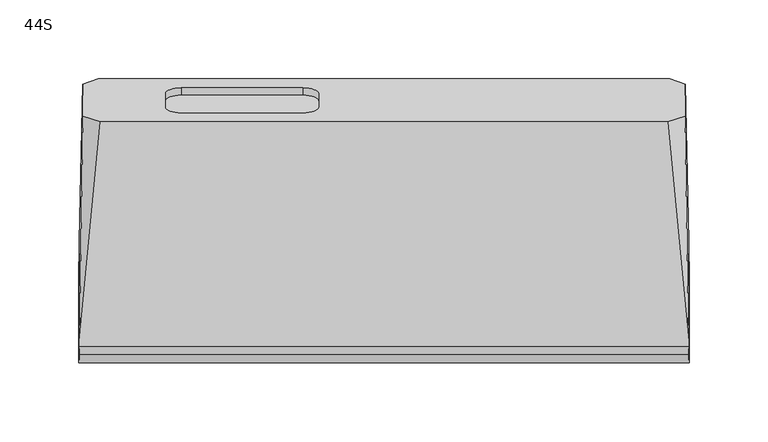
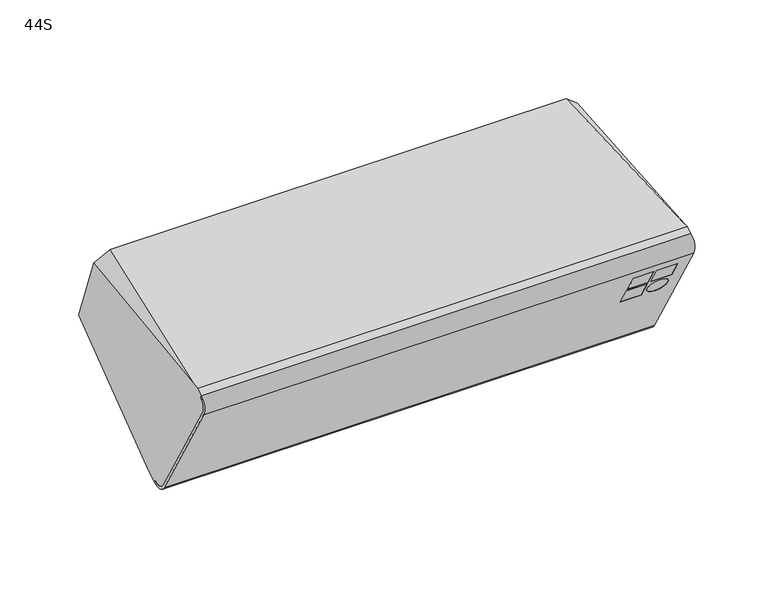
"""IFC4 building model written with IfcOpenShell, lengths in millimetres: proxy geometry, d&b xS-Series 44S Point Source : 44S."""

import ifcopenshell
import ifcopenshell.guid

model = None  # the IFC model being written
_history = None  # IfcOwnerHistory: only IFC2X3 demands one
_inside = {}  # id of a spatial element -> (the spatial element, [elements in it])
_under = {}  # id of a project, library or spatial element -> (it, [spatial elements below it])
_declared = {}  # id of a project -> (the project, [libraries it declares])
_typed = {}  # id of a type object -> (the type object, [elements of that type])
_made_of = {}  # id of a material, layer set ... -> (it, [elements and type objects made of it])


def new_model(schema):
    """Start an empty IFC model of exactly this schema.

    Asked for "IFC4X3", IfcOpenShell would pick the latest addendum, in which some entities
    have other attributes; the version numbers below select the first issue.
    IFC2X3 requires an IfcOwnerHistory on every rooted entity: one is made here for all.
    """
    global model, _history
    if schema == "IFC4X3":
        model = ifcopenshell.file(schema_version=(4, 3, 0, 0))
    else:
        model = ifcopenshell.file(schema=schema)
    _inside.clear()
    _under.clear()
    _declared.clear()
    _typed.clear()
    _made_of.clear()
    _history = None
    if model.schema == "IFC2X3":
        org = make("IfcOrganization", Name="unknown")
        user = make(
            "IfcPersonAndOrganization",
            ThePerson=make("IfcPerson", FamilyName="unknown"),
            TheOrganization=org,
        )
        app = make(
            "IfcApplication",
            ApplicationDeveloper=org,
            Version="unknown",
            ApplicationFullName="unknown",
            ApplicationIdentifier="unknown",
        )
        _history = make(
            "IfcOwnerHistory",
            OwningUser=user,
            OwningApplication=app,
            ChangeAction="ADDED",
            CreationDate=0,
        )
    return model


def make(cls, **values):
    """One entity of the class cls with the attributes given. An attribute that is None is left unset."""
    return model.create_entity(
        cls, **{name: value for name, value in values.items() if value is not None}
    )


def rooted(cls, **values):
    """An entity with a GlobalId (a new one), such as an element, a storey or a relation."""
    return make(cls, GlobalId=ifcopenshell.guid.new(), OwnerHistory=_history, **values)


def si_unit(unit_type, name, prefix=None):
    """IfcSIUnit, for example si_unit("LENGTHUNIT", "METRE", prefix="MILLI")."""
    return make("IfcSIUnit", UnitType=unit_type, Prefix=prefix, Name=name)


def assignment(units):
    """IfcUnitAssignment: the units of a project."""
    return None if units is None else make("IfcUnitAssignment", Units=units)


def point(xyz):
    """IfcCartesianPoint."""
    return None if xyz is None else make("IfcCartesianPoint", Coordinates=xyz)


def direction(xyz):
    """IfcDirection."""
    return None if xyz is None else make("IfcDirection", DirectionRatios=xyz)


def frame(location, z_axis=None, x_axis=None):
    """IfcAxis2Placement3D, a coordinate frame: its origin and axes. An axis left out is left unset."""
    return make(
        "IfcAxis2Placement3D",
        Location=point(location),
        Axis=direction(z_axis),
        RefDirection=direction(x_axis),
    )


def frame_2d(location, x_axis=None):
    """IfcAxis2Placement2D, a coordinate frame in the plane: its origin and x axis."""
    return make(
        "IfcAxis2Placement2D", Location=point(location), RefDirection=direction(x_axis)
    )


def origin():
    """The frame at (0, 0, 0) with its axes left unset."""
    return frame((0.0, 0.0, 0.0))


def place(relative_to, where):
    """IfcLocalPlacement: puts the frame where relative to a parent placement (None: the world)."""
    return make(
        "IfcLocalPlacement", PlacementRelTo=relative_to, RelativePlacement=where
    )


def context(
    kind, dimensions, precision=None, world=None, true_north=None, identifier=None
):
    """IfcGeometricRepresentationContext, for example the 3D "Model" context."""
    return make(
        "IfcGeometricRepresentationContext",
        ContextIdentifier=identifier,
        ContextType=kind,
        CoordinateSpaceDimension=dimensions,
        Precision=precision,
        WorldCoordinateSystem=world,
        TrueNorth=true_north,
    )


def project(units=None, contexts=None):
    """IfcProject with its units and contexts."""
    return rooted(
        "IfcProject",
        Name="project",
        RepresentationContexts=contexts,
        UnitsInContext=assignment(units),
    )


def spatial(cls, under=None, at=None, **own):
    """A site, building, storey or space (cls), placed at a placement, below another one or the project."""
    s = rooted(cls, ObjectPlacement=at, **own)
    if under is not None:
        _under.setdefault(under.id(), (under, []))[1].append(s)
    return s


def polyline(points):
    """IfcPolyline through the points."""
    return make("IfcPolyline", Points=[point(p) for p in points])


def circle_curve(where, radius):
    """IfcCircle in the frame where."""
    return make("IfcCircle", Position=where, Radius=radius)


def ellipse_curve(where, semi_axis1, semi_axis2):
    """IfcEllipse in the frame where."""
    return make(
        "IfcEllipse", Position=where, SemiAxis1=semi_axis1, SemiAxis2=semi_axis2
    )


def trimmed(basis, trim1, trim2, sense, master):
    """IfcTrimmedCurve: the piece of a basis curve between two trims."""
    return make(
        "IfcTrimmedCurve",
        BasisCurve=basis,
        Trim1=trim1,
        Trim2=trim2,
        SenseAgreement=sense,
        MasterRepresentation=master,
    )


def segment(curve, same_sense, transition):
    """IfcCompositeCurveSegment."""
    return make(
        "IfcCompositeCurveSegment",
        Transition=transition,
        SameSense=same_sense,
        ParentCurve=curve,
    )


def composite_curve(segments, self_intersect=None):
    """IfcCompositeCurve: segments joined end to end."""
    return make("IfcCompositeCurve", Segments=segments, SelfIntersect=self_intersect)


def outline(outer, holes=None, kind="AREA"):
    """IfcArbitraryClosedProfileDef: a profile drawn as a closed curve; with holes, ...WithVoids."""
    if holes is None:
        return make("IfcArbitraryClosedProfileDef", ProfileType=kind, OuterCurve=outer)
    return make(
        "IfcArbitraryProfileDefWithVoids",
        ProfileType=kind,
        OuterCurve=outer,
        InnerCurves=holes,
    )


def extrude(swept, where, along, depth):
    """IfcExtrudedAreaSolid: the profile swept, set in the frame where, extruded along a direction by depth."""
    return make(
        "IfcExtrudedAreaSolid",
        SweptArea=swept,
        Position=where,
        ExtrudedDirection=direction(along),
        Depth=depth,
    )


def shape(context_of_items, identifier, shape_type, items):
    """IfcShapeRepresentation: the items that make up one representation, for example the "Body"."""
    return make(
        "IfcShapeRepresentation",
        ContextOfItems=context_of_items,
        RepresentationIdentifier=identifier,
        RepresentationType=shape_type,
        Items=items,
    )


def source(mapping_origin, context_of_items, identifier, shape_type, items):
    """IfcRepresentationMap: a shape defined once, which mapped items show again and again."""
    return make(
        "IfcRepresentationMap",
        MappingOrigin=mapping_origin,
        MappedRepresentation=shape(context_of_items, identifier, shape_type, items),
    )


def transform(
    local_origin,
    x_axis=None,
    y_axis=None,
    z_axis=None,
    scale=None,
    scale2=None,
    scale3=None,
    uniform=True,
):
    """IfcCartesianTransformationOperator3D, or its non-uniform kind. x_axis, y_axis, z_axis: its Axis1, 2, 3."""
    if uniform:
        return make(
            "IfcCartesianTransformationOperator3D",
            Axis1=direction(x_axis),
            Axis2=direction(y_axis),
            LocalOrigin=point(local_origin),
            Scale=scale,
            Axis3=direction(z_axis),
        )
    return make(
        "IfcCartesianTransformationOperator3DnonUniform",
        Axis1=direction(x_axis),
        Axis2=direction(y_axis),
        LocalOrigin=point(local_origin),
        Scale=scale,
        Axis3=direction(z_axis),
        Scale2=scale2,
        Scale3=scale3,
    )


def mapped(mapping_source, mapping_target):
    """IfcMappedItem: shows the shape of a source again, moved by a transform."""
    return make(
        "IfcMappedItem", MappingSource=mapping_source, MappingTarget=mapping_target
    )


def made_of(thing, what):
    """Note that an element or type object is made of a material, layer set ...; save() writes the relation."""
    if what is not None:
        _made_of.setdefault(what.id(), (what, []))[1].append(thing)
    return thing


def element(
    cls,
    number,
    at=None,
    inside=None,
    cuts=None,
    type_object=None,
    material=None,
    context=None,
    identifier="Body",
    shape_type=None,
    held_by="IfcProductDefinitionShape",
    body=None,
    shapes=None,
    **own,
):
    """One element of the class cls, such as IfcWall. Its Tag is "e" and its number.

    at: its placement. inside: the storey or other place that contains it. cuts: it is an
    opening in that element (IfcRelVoidsElement). A single representation is given by context,
    identifier, shape_type and body (its items); several are given by shapes. held_by: the class
    of the entity that holds the representations. save() writes the other relations.
    """
    e = rooted(cls, Tag="e%d" % number, ObjectPlacement=at, **own)
    if body is not None:
        shapes = [shape(context, identifier, shape_type, body)]
    if shapes is not None:
        e.Representation = make(held_by, Representations=shapes)
    if inside is not None:
        _inside.setdefault(inside.id(), (inside, []))[1].append(e)
    if cuts is not None:
        rooted(
            "IfcRelVoidsElement", RelatingBuildingElement=cuts, RelatedOpeningElement=e
        )
    if type_object is not None:
        _typed.setdefault(type_object.id(), (type_object, []))[1].append(e)
    return made_of(e, material)


def aggregate(whole, parts):
    """IfcRelAggregates: a whole, such as a stair, and the parts it consists of."""
    return rooted("IfcRelAggregates", RelatingObject=whole, RelatedObjects=parts)


def save(model, path):
    """Write the relations noted so far, then the file.

    IfcRelAggregates (storeys below a building ...), IfcRelContainedInSpatialStructure (elements
    in a storey), IfcRelDefinesByType, IfcRelAssociatesMaterial and IfcRelDeclares: one each for
    every whole, place, type object, material and project.
    """
    for whole, parts in _under.values():
        aggregate(whole, parts)
    for where, things in _inside.values():
        rooted(
            "IfcRelContainedInSpatialStructure",
            RelatedElements=things,
            RelatingStructure=where,
        )
    for kind, things in _typed.values():
        rooted("IfcRelDefinesByType", RelatedObjects=things, RelatingType=kind)
    for what, things in _made_of.values():
        rooted("IfcRelAssociatesMaterial", RelatedObjects=things, RelatingMaterial=what)
    for by, libraries in _declared.values():
        rooted("IfcRelDeclares", RelatingContext=by, RelatedDefinitions=libraries)
    model.write(path)


def plane_surface(at):
    """IfcPlane: the flat surface through the origin of the frame at, square to its z axis."""
    return make("IfcPlane", Position=at)


def cylinder_surface(at, radius):
    """IfcCylindricalSurface: all points at the distance radius from the z axis of the frame at."""
    return make("IfcCylindricalSurface", Position=at, Radius=radius)


def revolved_surface(curve, axis_point, axis_direction):
    """IfcSurfaceOfRevolution: the curve turned about the line through axis_point along axis_direction."""
    return make(
        "IfcSurfaceOfRevolution",
        SweptCurve=make("IfcArbitraryOpenProfileDef", ProfileType="CURVE", Curve=curve),
        AxisPosition=make("IfcAxis1Placement", Location=point(axis_point), Axis=direction(axis_direction)),
    )


def advanced_brep(points, edges, surfaces, faces):
    """IfcAdvancedBrep: a solid bounded by faces that lie on surfaces and meet in shared edges.

    An edge is (start, end): straight between two places in points (the first is 0);
    or (start, end, curve); or (start, end, curve, False) where it runs against its curve.
    A face is (place in surfaces, loops), or (place, loops, False) where it looks against
    its surface's normal. A loop lists edges by number (the first is 1), with a minus sign
    where the edge is run from its end to its start. The first loop is the outer one.
    """
    corners = [point(p) for p in points]
    vertices = [make("IfcVertexPoint", VertexGeometry=c) for c in corners]
    made = []
    for start, end, *more in edges:
        made.append(
            make(
                "IfcEdgeCurve",
                EdgeStart=vertices[start],
                EdgeEnd=vertices[end],
                EdgeGeometry=more[0] if more else make("IfcPolyline", Points=[corners[start], corners[end]]),
                SameSense=more[1] if len(more) > 1 else True,
            )
        )
    hull = []
    for where, loops, *sense in faces:
        bounds = []
        for j, loop in enumerate(loops):
            ring = [make("IfcOrientedEdge", EdgeElement=made[abs(k) - 1], Orientation=k > 0) for k in loop]
            bounds.append(
                make(
                    "IfcFaceOuterBound" if j == 0 else "IfcFaceBound",
                    Bound=make("IfcEdgeLoop", EdgeList=ring),
                    Orientation=True,
                )
            )
        hull.append(make("IfcAdvancedFace", Bounds=bounds, FaceSurface=surfaces[where], SameSense=sense[0] if sense else True))
    return make("IfcAdvancedBrep", Outer=make("IfcClosedShell", CfsFaces=hull))


def proxy_44s_24e2fab3(model_context):
    return source(origin(), model_context, "Body", "SolidModel", [
        advanced_brep(
        [(-193.4294708, -91.0556514, 9.7828242), (-193.4294708, -37.0164369, -83.8158409), (-193.2924342, -26.1359145, -86.7312681), (-193.2924342, -25.1576766, -88.4256258), (-193.4644806, -38.8179307, -84.7653718), (-193.4644806, -92.8179307, 8.7653718), (-193.2918337, -89.1449006, 22.4733067), (-193.2918337, -88.1274482, 20.7110274), (193.4294708, -37.0164369, -83.8158409), (193.4294708, -91.0556514, 9.7828242), (193.2918337, -88.1274482, 20.7110274), (193.2918337, -89.1449006, 22.4733067), (193.4644806, -92.8179307, 8.7653718), (193.4644806, -38.8179307, -84.7653718), (193.2924342, -25.1576766, -88.4256258), (193.2924342, -26.1359145, -86.7312681), (164.7978139, -76.7223181, -15.0432374), (148.4644806, -76.7223181, -15.0432374), (148.4644806, -68.5556514, -29.188319), (164.7978139, -68.5556514, -29.188319), (164.7978139, -86.0556514, 1.1225702), (148.4644806, -86.0556514, 1.1225702), (148.4644806, -77.8889848, -13.0225114), (164.7978139, -77.8889848, -13.0225114), (183.4644806, -86.0556514, 1.1225702), (167.1311473, -86.0556514, 1.1225702), (167.1311473, -77.8889848, -13.0225114), (183.4644806, -77.8889848, -13.0225114), (167.1311473, -72.6389848, -22.1157782), (183.4644806, -72.6389848, -22.1157782), (148.4644806, -78.4845974, -16.0606898), (164.7978139, -78.4845974, -16.0606898), (164.7978139, -70.3179307, -30.2057714), (148.4644806, -70.3179307, -30.2057714), (148.4644806, -87.8179307, 0.1051178), (164.7978139, -87.8179307, 0.1051178), (164.7978139, -79.651264, -14.0399638), (148.4644806, -79.651264, -14.0399638), (167.1311473, -87.8179307, 0.1051178), (183.4644806, -87.8179307, 0.1051178), (183.4644806, -79.651264, -14.0399638), (167.1311473, -79.651264, -14.0399638), (183.4644806, -74.401264, -23.1332306), (167.1311473, -74.401264, -23.1332306)],
        [
            (0, 1),
            (1, 2, ellipse_curve(frame((-193.2924342, -30.1184621, -79.8332933), z_axis=(0.999852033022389, -0.014897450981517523, -0.008601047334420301), x_axis=(0.01720209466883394, 0.865897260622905, 0.4999260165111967)), 7.9662739, 7.9650952)),
            (2, 3),
            (3, 4, ellipse_curve(frame((-193.2924342, -30.1576766, -79.7653718), z_axis=(-0.999852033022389, 0.014897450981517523, 0.008601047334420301), x_axis=(-0.01720209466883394, -0.865897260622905, -0.4999260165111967)), 10.0014799, 10.0)),
            (4, 5),
            (5, 6, ellipse_curve(frame((-193.2918337, -84.1274482, 13.7828242), z_axis=(-0.999852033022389, 0.014897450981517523, 0.008601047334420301), x_axis=(-0.01720209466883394, -0.865897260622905, -0.4999260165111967)), 10.0363899, 10.0349048)),
            (6, 7),
            (7, 0, ellipse_curve(frame((-193.2918337, -84.1274482, 13.7828242), z_axis=(0.999852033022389, -0.014897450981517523, -0.008601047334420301), x_axis=(0.01720209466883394, 0.865897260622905, 0.4999260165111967)), 8.0011839, 8.0)),
            (8, 9),
            (9, 10, ellipse_curve(frame((193.2918337, -84.1274482, 13.7828242), z_axis=(-0.9998520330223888, -0.014897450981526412, -0.008601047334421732), x_axis=(0.017202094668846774, -0.8658972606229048, -0.49992601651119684)), 8.0011839, 8.0)),
            (10, 11),
            (11, 12, ellipse_curve(frame((193.2918337, -84.1274482, 13.7828242), z_axis=(0.9998520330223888, 0.014897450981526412, 0.008601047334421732), x_axis=(-0.017202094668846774, 0.8658972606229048, 0.49992601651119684)), 10.0363899, 10.0349048)),
            (12, 13),
            (13, 14, ellipse_curve(frame((193.2924342, -30.1576766, -79.7653718), z_axis=(0.9998520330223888, 0.014897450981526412, 0.008601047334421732), x_axis=(-0.017202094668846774, 0.8658972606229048, 0.49992601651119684)), 10.0014799, 10.0)),
            (14, 15),
            (15, 8, ellipse_curve(frame((193.2924342, -30.1184621, -79.8332933), z_axis=(-0.9998520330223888, -0.014897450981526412, -0.008601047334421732), x_axis=(0.017202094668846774, -0.8658972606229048, -0.49992601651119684)), 7.9662739, 7.9650952)),
            (0, 9),
            (8, 1),
            (16, 17),
            (17, 18),
            (18, 19),
            (19, 16),
            (20, 21),
            (21, 22),
            (22, 23),
            (23, 20),
            (24, 25),
            (25, 26),
            (26, 27),
            (27, 24),
            (28, 29, circle_curve(frame((175.2978139, -72.6389848, -22.1157782), z_axis=(0.0, -0.8660254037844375, -0.5000000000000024), x_axis=(-1.0, 0.0, 0.0)), 8.1666667)),
            (29, 28, circle_curve(frame((175.2978139, -72.6389848, -22.1157782), z_axis=(0.0, -0.8660254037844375, -0.5000000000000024), x_axis=(-1.0, 0.0, 0.0)), 8.1666667)),
            (15, 2),
            (14, 3),
            (13, 4),
            (12, 5),
            (30, 31),
            (31, 32),
            (32, 33),
            (33, 30),
            (34, 35),
            (35, 36),
            (36, 37),
            (37, 34),
            (38, 39),
            (39, 40),
            (40, 41),
            (41, 38),
            (42, 43, circle_curve(frame((175.2978139, -74.401264, -23.1332306), z_axis=(0.0, 0.8660254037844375, 0.5000000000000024), x_axis=(-1.0, 0.0, 0.0)), 8.1666667)),
            (43, 42, circle_curve(frame((175.2978139, -74.401264, -23.1332306), z_axis=(0.0, 0.8660254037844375, 0.5000000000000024), x_axis=(-1.0, 0.0, 0.0)), 8.1666667)),
            (11, 6),
            (10, 7),
            (16, 31),
            (30, 17),
            (19, 32),
            (18, 33),
            (20, 35),
            (34, 21),
            (23, 36),
            (22, 37),
            (24, 39),
            (38, 25),
            (27, 40),
            (26, 41),
            (28, 43),
            (42, 29),
        ],
        [
            plane_surface(frame((-193.8309972, -134.2671805, 37.950861), z_axis=(-0.999852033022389, 0.014897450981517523, 0.008601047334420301), x_axis=(0.0, 0.5000000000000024, -0.8660254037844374))),
            plane_surface(frame((190.7119283, 22.7365637, 128.597015), z_axis=(0.999852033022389, 0.014897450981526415, 0.008601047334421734), x_axis=(0.0, 0.5000000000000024, -0.8660254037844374))),
            plane_surface(frame((-202.5, -91.0556514, 9.7828242), z_axis=(0.0, 0.8660254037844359, 0.5000000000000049), x_axis=(1.0, 0.0, 0.0))),
            revolved_surface(polyline([(193.4294708, -34.10100970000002, -72.93531851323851), (-193.4294708, -34.10100970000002, -72.93531851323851)]), (202.5, -30.1184621, -79.8332933), (1.0, 0.0, 0.0)),
            plane_surface(frame((-202.5, -26.1359145, -86.7312681), z_axis=(0.0, 0.8660254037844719, 0.4999999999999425), x_axis=(1.0, 0.0, 0.0))),
            cylinder_surface(frame((202.5, -30.1576766, -79.7653718), z_axis=(-1.0, 0.0, 0.0), x_axis=(0.0, -0.5000000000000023, 0.8660254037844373)), 10.0),
            plane_surface(frame((-202.5, -38.8179307, -84.7653718), z_axis=(0.0, -0.8660254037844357, -0.5000000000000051), x_axis=(1.0, 0.0, 0.0))),
            cylinder_surface(frame((202.5, -84.1274482, 13.7828242), z_axis=(-1.0, 0.0, 0.0), x_axis=(0.0, -0.5000000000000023, 0.8660254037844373)), 10.0349048),
            plane_surface(frame((-202.5, -89.1449006, 22.4733067), z_axis=(0.0, 0.8660254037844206, 0.5000000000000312), x_axis=(1.0, 0.0, 0.0))),
            revolved_surface(polyline([(193.42947082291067, -88.12744820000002, 20.7110274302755), (-193.42947082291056, -88.12744820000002, 20.7110274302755)]), (202.5, -84.1274482, 13.7828242), (1.0, 0.0, 0.0)),
            plane_surface(frame((164.7978139, -78.4845974, -16.0606898), z_axis=(0.0, 0.5000000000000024, -0.8660254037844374), x_axis=(0.0, 0.8660254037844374, 0.5000000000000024))),
            plane_surface(frame((164.7978139, -70.3179307, -30.2057714), z_axis=(-1.0000000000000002, 0.0, 0.0), x_axis=(0.0, 0.8660254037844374, 0.5000000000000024))),
            plane_surface(frame((148.4644806, -70.3179307, -30.2057714), z_axis=(0.0, -0.5000000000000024, 0.8660254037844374), x_axis=(0.0, 0.8660254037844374, 0.5000000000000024))),
            plane_surface(frame((148.4644806, -78.4845974, -16.0606898), z_axis=(1.0000000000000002, 0.0, 0.0), x_axis=(0.0, 0.8660254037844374, 0.5000000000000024))),
            plane_surface(frame((164.7978139, -87.8179307, 0.1051178), z_axis=(0.0, 0.5000000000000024, -0.8660254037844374), x_axis=(0.0, 0.8660254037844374, 0.5000000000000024))),
            plane_surface(frame((164.7978139, -79.651264, -14.0399638), z_axis=(-1.0000000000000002, 0.0, 0.0), x_axis=(0.0, 0.8660254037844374, 0.5000000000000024))),
            plane_surface(frame((148.4644806, -79.651264, -14.0399638), z_axis=(0.0, -0.5000000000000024, 0.8660254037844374), x_axis=(0.0, 0.8660254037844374, 0.5000000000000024))),
            plane_surface(frame((148.4644806, -87.8179307, 0.1051178), z_axis=(1.0000000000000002, 0.0, 0.0), x_axis=(0.0, 0.8660254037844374, 0.5000000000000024))),
            plane_surface(frame((183.4644806, -87.8179307, 0.1051178), z_axis=(0.0, 0.5000000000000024, -0.8660254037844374), x_axis=(0.0, 0.8660254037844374, 0.5000000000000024))),
            plane_surface(frame((183.4644806, -79.651264, -14.0399638), z_axis=(-1.0000000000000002, 0.0, 0.0), x_axis=(0.0, 0.8660254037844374, 0.5000000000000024))),
            plane_surface(frame((167.1311473, -79.651264, -14.0399638), z_axis=(0.0, -0.5000000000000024, 0.8660254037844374), x_axis=(0.0, 0.8660254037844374, 0.5000000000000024))),
            plane_surface(frame((167.1311473, -87.8179307, 0.1051178), z_axis=(1.0000000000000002, 0.0, 0.0), x_axis=(0.0, 0.8660254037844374, 0.5000000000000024))),
            revolved_surface(polyline([(167.1311472, -74.40126403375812, -23.133230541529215), (167.1311472, -72.6389848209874, -22.11577816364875)]), (175.2978139, -22.2212488, 6.9929153), (0.0, -0.8660254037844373, -0.5000000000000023)),
        ],
        [
            (0, [[1, 2, 3, 4, 5, 6, 7, 8]]),
            (1, [[9, 10, 11, 12, 13, 14, 15, 16]]),
            (2, [[17, -9, 18, -1], [19, 20, 21, 22], [23, 24, 25, 26], [27, 28, 29, 30], [31, 32]]),
            (3, [[-18, -16, 33, -2]]),
            (4, [[-33, -15, 34, -3]]),
            (5, [[-34, -14, 35, -4]]),
            (6, [[-35, -13, 36, -5], [37, 38, 39, 40], [41, 42, 43, 44], [45, 46, 47, 48], [49, 50]]),
            (7, [[-36, -12, 51, -6]]),
            (8, [[-51, -11, 52, -7]]),
            (9, [[-17, -8, -52, -10]]),
            (10, [[53, -37, 54, -19]]),
            (11, [[-53, -22, 55, -38]]),
            (12, [[-55, -21, 56, -39]]),
            (13, [[-56, -20, -54, -40]]),
            (14, [[57, -41, 58, -23]]),
            (15, [[-57, -26, 59, -42]]),
            (16, [[-59, -25, 60, -43]]),
            (17, [[-60, -24, -58, -44]]),
            (18, [[61, -45, 62, -27]]),
            (19, [[-61, -30, 63, -46]]),
            (20, [[-63, -29, 64, -47]]),
            (21, [[-64, -28, -62, -48]]),
            (22, [[65, -49, 66, -31]]),
            (22, [[-65, -32, -66, -50]]),
        ],
    ),
        extrude(outline(polyline([(0.0, -16.3333333), (0.0, 0.0), (5.0, 0.0), (5.0, -16.3333333), (0.0, -16.3333333)])), frame((148.4644806, -70.3179307, -30.2057714), z_axis=(0.0, -0.5000000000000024, 0.8660254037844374), x_axis=(0.0, 0.8660254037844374, 0.5000000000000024)), (0.0, 0.0, 1.0), 16.3333333),
        extrude(outline(polyline([(0.0, -16.3333333), (0.0, 0.0), (5.0, 0.0), (5.0, -16.3333333), (0.0, -16.3333333)])), frame((148.4644806, -79.651264, -14.0399638), z_axis=(0.0, -0.5000000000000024, 0.8660254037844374), x_axis=(0.0, 0.8660254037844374, 0.5000000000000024)), (0.0, 0.0, 1.0), 16.3333333),
        extrude(outline(polyline([(0.0, -16.3333333), (0.0, 0.0), (5.0, 0.0), (5.0, -16.3333333), (0.0, -16.3333333)])), frame((167.1311473, -79.651264, -14.0399638), z_axis=(0.0, -0.5000000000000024, 0.8660254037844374), x_axis=(0.0, 0.8660254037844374, 0.5000000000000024)), (0.0, 0.0, 1.0), 16.3333333),
        extrude(outline(composite_curve([segment(trimmed(circle_curve(frame_2d((-17.4999999, -26.8333333)), 8.1666667), [point((-17.4999999, -35.0))], [point((-17.4999999, -18.6666667))], False, "CARTESIAN"), True, "CONTINUOUS"), segment(trimmed(circle_curve(frame_2d((-17.4999999, -26.8333333)), 8.1666667), [point((-17.4999999, -18.6666667))], [point((-17.4999999, -35.0))], False, "CARTESIAN"), True, "CONTINUOUS")], self_intersect=False)), frame((148.4644806, -65.651264, -38.2886751), z_axis=(0.0, 0.8660254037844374, 0.5000000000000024), x_axis=(0.0, 0.5000000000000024, -0.8660254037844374)), (0.0, 0.0, 1.0), 5.0),
        advanced_brep(
        [(-193.2924342, -25.1576766, -88.4256258), (-193.2924342, -26.1359145, -86.7312681), (-193.4294708, -37.0164369, -83.8158409), (-193.4294708, -91.0556514, 9.7828242), (-193.2918337, -88.1274482, 20.7110274), (-193.2918337, -89.1274482, 22.4430782), (-193.1898069, -83.9917527, 25.4081734), (-193.132384, -80.4940274, 26.0252142), (-190.8800877, 62.083919, 40.8972455), (-191.0574064, 82.3836518, -14.875812), (-193.132384, -17.1012722, -83.7742586), (193.2924342, -26.1359145, -86.7312681), (193.2924342, -25.1576766, -88.4256258), (193.132384, -17.1012722, -83.7742586), (191.0574064, 82.3836518, -14.875812), (190.8800877, 62.083919, 40.8972455), (193.132384, -80.4940274, 26.0252142), (193.1898069, -83.9917527, 25.4081734), (193.2918337, -89.1274482, 22.4430782), (193.2918337, -88.1274482, 20.7110274), (193.4294708, -91.0556514, 9.7828242), (193.4294708, -37.0164369, -83.8158409), (-181.3061997, 85.8306872, -24.3464641), (181.3061997, 85.8306872, -24.3464641), (179.9289467, 58.5679066, 50.55741), (-179.9289467, 58.5679066, 50.55741), (-138.5, 67.7530351, 25.3214771), (-138.5, 76.6455588, 0.8894689), (-128.5, 80.0657602, -8.5074573), (-51.5, 80.0657602, -8.5074573), (-41.5, 76.6455588, 0.8894689), (-41.5, 67.7530351, 25.3214771), (-51.5, 64.3328336, 34.7184033), (-128.5, 64.3328336, 34.7184033), (-138.5, 63.054572, 23.6113763), (-128.5, 59.6343705, 33.0083025), (-51.5, 59.6343705, 33.0083025), (-41.5, 63.054572, 23.6113763), (-41.5, 71.9470957, -0.8206318), (-51.5, 75.3672971, -10.217558), (-128.5, 75.3672971, -10.217558), (-138.5, 71.9470957, -0.8206318)],
        [
            (0, 1),
            (1, 2, ellipse_curve(frame((-193.2924342, -30.1184621, -79.8332933), z_axis=(-0.999852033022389, 0.014897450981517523, 0.008601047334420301), x_axis=(-0.01720209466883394, -0.8658972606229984, -0.49992601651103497)), 7.9662739, 7.9650952)),
            (2, 3),
            (3, 4, ellipse_curve(frame((-193.2918337, -84.1274482, 13.7828242), z_axis=(-0.999852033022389, 0.014897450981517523, 0.008601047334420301), x_axis=(-0.01720209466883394, -0.8658972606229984, -0.49992601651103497)), 8.0011839, 8.0)),
            (4, 5),
            (5, 6),
            (6, 7),
            (7, 8),
            (8, 9),
            (9, 10),
            (10, 0),
            (11, 12),
            (12, 13),
            (13, 14),
            (14, 15),
            (15, 16),
            (16, 17),
            (17, 18),
            (18, 19),
            (19, 20, ellipse_curve(frame((193.2918337, -84.1274482, 13.7828242), z_axis=(0.9998520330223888, 0.014897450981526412, 0.008601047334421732), x_axis=(-0.017202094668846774, 0.8658972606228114, 0.4999260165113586)), 8.0011839, 8.0)),
            (20, 21),
            (21, 11, ellipse_curve(frame((193.2924342, -30.1184621, -79.8332933), z_axis=(0.9998520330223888, 0.014897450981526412, 0.008601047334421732), x_axis=(-0.017202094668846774, 0.8658972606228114, 0.4999260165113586)), 7.9662739, 7.9650952)),
            (0, 12),
            (11, 1),
            (21, 2),
            (20, 3),
            (19, 4),
            (18, 5),
            (17, 6),
            (10, 22),
            (22, 23),
            (23, 13),
            (16, 24),
            (24, 25),
            (25, 7),
            (9, 22),
            (23, 14),
            (15, 24),
            (25, 8),
            (26, 27),
            (27, 28, circle_curve(frame((-128.5, 76.6455588, 0.8894689), z_axis=(0.0, -0.9396926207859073, -0.34202014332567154), x_axis=(0.0, -0.34202014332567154, 0.9396926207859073)), 10.0)),
            (28, 29),
            (29, 30, circle_curve(frame((-51.5, 76.6455588, 0.8894689), z_axis=(0.0, -0.9396926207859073, -0.34202014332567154), x_axis=(0.0, -0.34202014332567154, 0.9396926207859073)), 10.0)),
            (30, 31),
            (31, 32, circle_curve(frame((-51.5, 67.7530351, 25.3214771), z_axis=(0.0, -0.9396926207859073, -0.34202014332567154), x_axis=(0.0, -0.34202014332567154, 0.9396926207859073)), 10.0)),
            (32, 33),
            (33, 26, circle_curve(frame((-128.5, 67.7530351, 25.3214771), z_axis=(0.0, -0.9396926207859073, -0.34202014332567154), x_axis=(0.0, -0.34202014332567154, 0.9396926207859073)), 10.0)),
            (34, 35, circle_curve(frame((-128.5, 63.054572, 23.6113763), z_axis=(0.0, 0.9396926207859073, 0.34202014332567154), x_axis=(0.0, -0.34202014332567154, 0.9396926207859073)), 10.0)),
            (35, 36),
            (36, 37, circle_curve(frame((-51.5, 63.054572, 23.6113763), z_axis=(0.0, 0.9396926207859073, 0.34202014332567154), x_axis=(0.0, -0.34202014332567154, 0.9396926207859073)), 10.0)),
            (37, 38),
            (38, 39, circle_curve(frame((-51.5, 71.9470957, -0.8206318), z_axis=(0.0, 0.9396926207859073, 0.34202014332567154), x_axis=(0.0, -0.34202014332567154, 0.9396926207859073)), 10.0)),
            (39, 40),
            (40, 41, circle_curve(frame((-128.5, 71.9470957, -0.8206318), z_axis=(0.0, 0.9396926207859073, 0.34202014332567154), x_axis=(0.0, -0.34202014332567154, 0.9396926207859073)), 10.0)),
            (41, 34),
            (41, 27),
            (26, 34),
            (40, 28),
            (39, 29),
            (38, 30),
            (37, 31),
            (36, 32),
            (35, 33),
        ],
        [
            plane_surface(frame((-193.8309972, -134.2671805, 37.950861), z_axis=(-0.999852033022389, 0.014897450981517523, 0.008601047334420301), x_axis=(0.0, 0.5000000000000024, -0.8660254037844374))),
            plane_surface(frame((190.7119283, 22.7365637, 128.597015), z_axis=(0.999852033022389, 0.014897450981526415, 0.008601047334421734), x_axis=(0.0, 0.5000000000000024, -0.8660254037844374))),
            plane_surface(frame((-207.1452552, -25.1576766, -88.4256258), z_axis=(0.0, -0.8660254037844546, -0.4999999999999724), x_axis=(1.0, 0.0, 0.0))),
            cylinder_surface(frame((207.1452552, -30.1184621, -79.8332933), z_axis=(-1.0, 0.0, 0.0), x_axis=(0.0, 0.5000000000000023, -0.8660254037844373)), 7.9650952),
            plane_surface(frame((-207.1452552, -37.0164369, -83.8158409), z_axis=(0.0, -0.8660254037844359, -0.5000000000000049), x_axis=(1.0, 0.0, 0.0))),
            cylinder_surface(frame((207.1452552, -84.1274482, 13.7828242), z_axis=(-1.0, 0.0, 0.0), x_axis=(0.0, 0.5000000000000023, -0.8660254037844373)), 8.0),
            plane_surface(frame((-207.1452552, -88.1274482, 20.7110274), z_axis=(0.0, -0.8660254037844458, -0.49999999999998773), x_axis=(1.0, 0.0, 0.0))),
            plane_surface(frame((-207.1452552, -89.1274482, 22.4430782), z_axis=(0.0, -0.5000000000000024, 0.8660254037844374), x_axis=(1.0, 0.0, 0.0))),
            plane_surface(frame((-207.1452552, -19.9917527, -85.4430782), z_axis=(0.0, 0.5000000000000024, -0.8660254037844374), x_axis=(1.0, 0.0, 0.0))),
            plane_surface(frame((0.0, 58.5679066, 50.55741), z_axis=(0.0, -0.17372939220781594, 0.9847934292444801), x_axis=(-1.0, 0.0, 0.0))),
            plane_surface(frame((-186.6967137, 94.4340472, -11.5645677), z_axis=(-0.7053631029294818, 0.41346263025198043, -0.5757703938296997), x_axis=(0.7071067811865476, 0.35355339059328, -0.6123724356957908))),
            plane_surface(frame((186.6967137, 94.4340472, -11.5645677), z_axis=(0.7053631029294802, 0.41346263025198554, -0.5757703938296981), x_axis=(0.7071067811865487, -0.3535533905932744, 0.6123724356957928))),
            plane_surface(frame((186.6967137, 61.9517901, 44.6963519), z_axis=(0.6719558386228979, -0.0663243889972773, 0.7376153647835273), x_axis=(-0.7071067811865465, -0.3535533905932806, 0.6123724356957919))),
            plane_surface(frame((-186.6967137, 61.9517901, 44.6963519), z_axis=(-0.6719558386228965, -0.06632438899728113, 0.7376153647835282), x_axis=(-0.7071067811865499, 0.3535533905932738, -0.6123724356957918))),
            plane_surface(frame((-250.0, 91.8245154, -40.8143715), z_axis=(0.0, 0.9396926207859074, 0.34202014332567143), x_axis=(1.0, 0.0, 0.0))),
            plane_surface(frame((-138.5, 81.1322241, -26.0565648), z_axis=(0.0, 0.9396926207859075, 0.34202014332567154), x_axis=(0.0, 0.34202014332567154, -0.9396926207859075))),
            plane_surface(frame((-138.5, 63.054572, 23.6113763), z_axis=(1.0, 0.0, 0.0), x_axis=(0.0, 0.939692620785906, 0.3420201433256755))),
            revolved_surface(polyline([(-128.5, 68.5268942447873, 8.576294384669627), (-128.5, 73.22535736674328, 10.286395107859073)]), (-128.5, 76.6455588, 0.8894689), (0.0, -0.9396926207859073, -0.34202014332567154)),
            plane_surface(frame((-128.5, 75.3672971, -10.217558), z_axis=(0.0, -0.3420201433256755, 0.939692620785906), x_axis=(0.0, 0.939692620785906, 0.3420201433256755))),
            revolved_surface(polyline([(-51.5, 68.5268942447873, 8.576294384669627), (-51.5, 73.22535736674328, 10.286395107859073)]), (-51.5, 76.6455588, 0.8894689), (0.0, -0.9396926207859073, -0.34202014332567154)),
            plane_surface(frame((-41.5, 71.9470957, -0.8206318), z_axis=(-1.0, 0.0, 0.0), x_axis=(0.0, 0.939692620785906, 0.3420201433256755))),
            revolved_surface(polyline([(-51.5, 59.634370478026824, 33.008302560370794), (-51.5, 64.33283366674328, 34.71840330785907)]), (-51.5, 67.7530351, 25.3214771), (0.0, -0.9396926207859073, -0.34202014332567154)),
            plane_surface(frame((-51.5, 59.6343705, 33.0083025), z_axis=(0.0, 0.3420201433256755, -0.939692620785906), x_axis=(0.0, 0.939692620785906, 0.3420201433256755))),
            revolved_surface(polyline([(-128.5, 59.634370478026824, 33.008302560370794), (-128.5, 64.33283366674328, 34.71840330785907)]), (-128.5, 67.7530351, 25.3214771), (0.0, -0.9396926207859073, -0.34202014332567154)),
        ],
        [
            (0, [[1, 2, 3, 4, 5, 6, 7, 8, 9, 10, 11]]),
            (1, [[12, 13, 14, 15, 16, 17, 18, 19, 20, 21, 22]]),
            (2, [[23, -12, 24, -1]]),
            (3, [[-24, -22, 25, -2]]),
            (4, [[-25, -21, 26, -3]]),
            (5, [[-26, -20, 27, -4]]),
            (6, [[-27, -19, 28, -5]]),
            (7, [[-28, -18, 29, -6]]),
            (8, [[-23, -11, 30, 31, 32, -13]]),
            (9, [[-29, -17, 33, 34, 35, -7]]),
            (10, [[-30, -10, 36]]),
            (11, [[-32, 37, -14]]),
            (12, [[-33, -16, 38]]),
            (13, [[-35, 39, -8]]),
            (14, [[-31, -36, -9, -39, -34, -38, -15, -37], [40, 41, 42, 43, 44, 45, 46, 47]]),
            (15, [[48, 49, 50, 51, 52, 53, 54, 55]]),
            (16, [[-55, 56, -40, 57]]),
            (17, [[-54, 58, -41, -56]]),
            (18, [[-53, 59, -42, -58]]),
            (19, [[-52, 60, -43, -59]]),
            (20, [[-51, 61, -44, -60]]),
            (21, [[-50, 62, -45, -61]]),
            (22, [[-49, 63, -46, -62]]),
            (23, [[-48, -57, -47, -63]]),
        ],
    ),
    ])


if __name__ == "__main__":
    model = new_model("IFC4")
    model_context = context("Model", 3, world=origin())
    ifc_project = project(units=[si_unit("LENGTHUNIT", "METRE", prefix="MILLI")], contexts=[model_context])
    site = spatial("IfcSite", under=ifc_project)
    building = spatial("IfcBuilding", under=site)
    placement = place(None, origin())
    proxy_44s_shape = proxy_44s_24e2fab3(model_context)
    element("IfcBuildingElementProxy", 1, Name="d&b xS-Series 44S Point Source : 44S", ObjectType="d&b xS-Series 44S Point Source : 44S", at=placement, inside=building, context=model_context, shape_type="MappedRepresentation", body=[
        mapped(proxy_44s_shape, transform((0.0, 0.0, 0.0), x_axis=(1.0, 0.0, 0.0), y_axis=(0.0, 1.0, 0.0), z_axis=(0.0, 0.0, 1.0))),
    ])
    save(model, "model.ifc")
